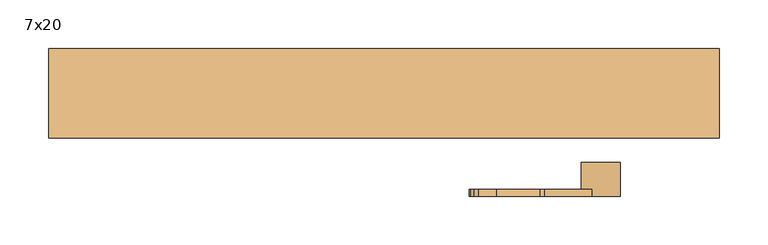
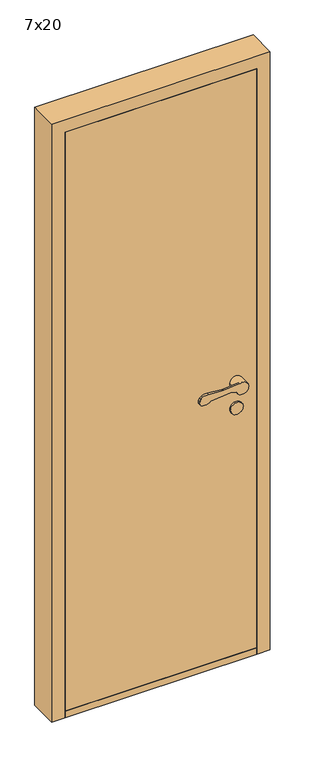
"""IFC4 building model written with IfcOpenShell, lengths in millimetres: door geometry, Innerdør Slett (Diplomat) : 7x20."""

from ifc_helpers import new_model, si_unit, point, frame, frame_2d, origin, origin_with_axes, place, context, project, spatial, polyline, circle_curve, trimmed, segment, composite_curve, outline, extrude, source, transform, mapped, element, save
from ifc_brep_helpers import plane_surface, cylinder_surface, revolved_surface, advanced_brep


def door_7x20_159f4b39(model_context):
    return source(origin(), model_context, "Body", "SolidModel", [
        advanced_brep(
        [(243.9611305, 45.0, 949.1175955), (238.8520664, 45.0, 949.9496913), (176.0476109, 45.0, 943.6260011), (146.721536, 45.0, 938.7393398), (141.8691983, 45.0, 951.8913379), (145.505009, 45.0, 959.9624074), (150.3175669, 45.0, 964.8810513), (168.8963175, 45.0, 967.2639242), (213.6202158, 45.0, 964.1804415), (218.6891233, 45.0, 964.26032), (267.2687793, 45.0, 969.1517356), (296.379633, 45.0, 951.3474568), (258.3841161, 45.0, 942.6204086), (218.6891233, 37.8915284, 964.26032), (213.6202158, 37.8915284, 964.1804415), (168.8963175, 37.8915284, 967.2639242), (150.3175669, 37.8915284, 964.8810513), (145.505009, 37.8915284, 959.9624074), (141.8691983, 37.8915284, 951.8913379), (146.721536, 37.8915284, 938.7393398), (176.0476109, 37.8915284, 943.6260011), (238.8520664, 37.8915284, 949.9496913), (243.9611305, 37.8915284, 949.1175955), (258.3841161, 37.8915284, 942.6204086), (256.379633, 37.8915284, 951.3474568), (267.2687793, 37.8915284, 969.1517356), (296.379633, 10.0, 951.3474568), (256.379633, 10.0, 951.3474568)],
        [
            (0, 1, circle_curve(frame((239.8538865, 45.0, 940.0), z_axis=(0.0, -1.0, 0.0), x_axis=(-0.9949691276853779, 0.0, -0.10018200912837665)), 10.0)),
            (1, 2),
            (2, 3, circle_curve(frame((157.8569644, 45.0, 962.352734), z_axis=(0.0, 1.0, 0.0), x_axis=(-0.9949691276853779, 0.0, -0.10018200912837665)), 26.1072815)),
            (3, 4, circle_curve(frame((150.9867937, 45.0, 947.7840939), z_axis=(0.0, 1.0, 0.0), x_axis=(-0.9949691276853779, 0.0, -0.10018200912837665)), 10.0)),
            (4, 5),
            (5, 6, circle_curve(frame((154.6226045, 45.0, 955.8551634), z_axis=(0.0, 1.0, 0.0), x_axis=(-0.9949691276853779, 0.0, -0.10018200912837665)), 10.0)),
            (6, 7, circle_curve(frame((163.2326797, 45.0, 937.8033877), z_axis=(0.0, 1.0, 0.0), x_axis=(-0.9949691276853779, 0.0, -0.10018200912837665)), 30.0)),
            (7, 8),
            (8, 9, circle_curve(frame((215.683663, 45.0, 994.1093938), z_axis=(0.0, -1.0, 0.0), x_axis=(-0.9949691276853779, 0.0, -0.10018200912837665)), 30.0)),
            (9, 10),
            (10, 11, circle_curve(frame((276.379633, 45.0, 951.3474568), z_axis=(0.0, 1.0, 0.0), x_axis=(-1.0, 0.0, 0.0)), 20.0)),
            (11, 12, circle_curve(frame((276.379633, 45.0, 951.3474568), z_axis=(0.0, 1.0, 0.0), x_axis=(-1.0, 0.0, 0.0)), 20.0)),
            (12, 0),
            (13, 14, circle_curve(frame((215.683663, 37.8915284, 994.1093938), z_axis=(0.0, 1.0, 0.0), x_axis=(-0.9949691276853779, 0.0, -0.10018200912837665)), 30.0)),
            (14, 15),
            (15, 16, circle_curve(frame((163.2326797, 37.8915284, 937.8033877), z_axis=(0.0, -1.0, 0.0), x_axis=(-0.9949691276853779, 0.0, -0.10018200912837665)), 30.0)),
            (16, 17, circle_curve(frame((154.6226045, 37.8915284, 955.8551634), z_axis=(0.0, -1.0, 0.0), x_axis=(-0.9949691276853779, 0.0, -0.10018200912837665)), 10.0)),
            (17, 18),
            (18, 19, circle_curve(frame((150.9867937, 37.8915284, 947.7840939), z_axis=(0.0, -1.0, 0.0), x_axis=(-0.9949691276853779, 0.0, -0.10018200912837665)), 10.0)),
            (19, 20, circle_curve(frame((157.8569644, 37.8915284, 962.352734), z_axis=(0.0, -1.0, 0.0), x_axis=(-0.9949691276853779, 0.0, -0.10018200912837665)), 26.1072815)),
            (20, 21),
            (21, 22, circle_curve(frame((239.8538865, 37.8915284, 940.0), z_axis=(0.0, 1.0, 0.0), x_axis=(-0.9949691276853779, 0.0, -0.10018200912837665)), 10.0)),
            (22, 23),
            (23, 24, circle_curve(frame((276.379633, 37.8915284, 951.3474568), z_axis=(0.0, 1.0, 0.0), x_axis=(-1.0, 0.0, 0.0)), 20.0)),
            (24, 25, circle_curve(frame((276.379633, 37.8915284, 951.3474568), z_axis=(0.0, 1.0, 0.0), x_axis=(-1.0, 0.0, 0.0)), 20.0)),
            (25, 13),
            (9, 13),
            (25, 10),
            (22, 0),
            (12, 23),
            (21, 1),
            (20, 2),
            (19, 3),
            (18, 4),
            (17, 5),
            (16, 6),
            (15, 7),
            (14, 8),
            (26, 27, circle_curve(frame((276.379633, 10.0, 951.3474568), z_axis=(0.0, -1.0, 0.0), x_axis=(-1.0, 0.0, 0.0)), 20.0)),
            (27, 26, circle_curve(frame((276.379633, 10.0, 951.3474568), z_axis=(0.0, -1.0, 0.0), x_axis=(-1.0, 0.0, 0.0)), 20.0)),
            (27, 24),
            (11, 26),
        ],
        [
            plane_surface(frame((267.6960588, 45.0, 969.1947577), z_axis=(0.0, 1.0000000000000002, 0.0), x_axis=(0.9949691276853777, 0.0, 0.10018200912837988))),
            plane_surface(frame((267.6960588, 37.8915284, 969.1947577), z_axis=(0.0, -1.0000000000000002, 0.0), x_axis=(-0.9949691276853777, 0.0, -0.10018200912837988))),
            plane_surface(frame((218.6891233, 45.0, 964.26032), z_axis=(-0.10018200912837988, 0.0, 0.9949691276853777), x_axis=(0.0, -1.0, 0.0))),
            plane_surface(frame((276.9687366, 45.0, 934.2485115), z_axis=(-0.41072439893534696, 0.0, -0.91175954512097), x_axis=(0.0, -1.0, 0.0))),
            revolved_surface(polyline([(229.90419522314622, 37.8915284, 938.9981799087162), (229.90419522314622, 45.0, 938.9981799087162)]), (239.8538865, 37.8915284, 940.0), (0.0, -1.0, 0.0)),
            plane_surface(frame((238.8520664, 45.0, 949.9496913), z_axis=(0.10018200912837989, 0.0, -0.9949691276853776), x_axis=(0.0, -1.0, 0.0))),
            cylinder_surface(frame((157.8569644, 37.8915284, 962.352734), z_axis=(0.0, 1.0, 0.0), x_axis=(-0.9949691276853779, 0.0, -0.10018200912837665)), 26.1072815),
            cylinder_surface(frame((150.9867937, 37.8915284, 947.7840939), z_axis=(0.0, 1.0, 0.0), x_axis=(-0.9949691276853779, 0.0, -0.10018200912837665)), 10.0),
            plane_surface(frame((141.8691983, 45.0, 951.8913379), z_axis=(-0.9117595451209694, 0.0, 0.41072439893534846), x_axis=(0.0, -1.0, 0.0))),
            cylinder_surface(frame((154.6226045, 37.8915284, 955.8551634), z_axis=(0.0, 1.0, 0.0), x_axis=(-0.9949691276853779, 0.0, -0.10018200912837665)), 10.0),
            cylinder_surface(frame((163.2326797, 37.8915284, 937.8033877), z_axis=(0.0, 1.0, 0.0), x_axis=(-0.9949691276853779, 0.0, -0.10018200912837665)), 30.0),
            plane_surface(frame((168.8963175, 45.0, 967.2639242), z_axis=(0.06878157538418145, 0.0, 0.9976317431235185), x_axis=(0.0, -1.0, 0.0))),
            revolved_surface(polyline([(185.83458916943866, 37.8915284, 991.1039335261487), (185.83458916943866, 45.0, 991.1039335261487)]), (215.683663, 37.8915284, 994.1093938), (0.0, -1.0, 0.0)),
            plane_surface(frame((256.379633, 10.0, 951.3474568), z_axis=(0.0, -1.0, 0.0), x_axis=(0.0, 0.0, -1.0))),
            cylinder_surface(frame((276.379633, 10.0, 951.3474568), z_axis=(0.0, 1.0, 0.0), x_axis=(-1.0, 0.0, 0.0)), 20.0),
        ],
        [
            (0, [[1, 2, 3, 4, 5, 6, 7, 8, 9, 10, 11, 12, 13]]),
            (1, [[14, 15, 16, 17, 18, 19, 20, 21, 22, 23, 24, 25, 26]]),
            (2, [[27, -26, 28, -10]]),
            (3, [[29, -13, 30, -23]]),
            (4, [[-1, -29, -22, 31]]),
            (5, [[-2, -31, -21, 32]]),
            (6, [[-3, -32, -20, 33]]),
            (7, [[-4, -33, -19, 34]]),
            (8, [[-5, -34, -18, 35]]),
            (9, [[-6, -35, -17, 36]]),
            (10, [[-7, -36, -16, 37]]),
            (11, [[-8, -37, -15, 38]]),
            (12, [[-9, -38, -14, -27]]),
            (13, [[39, 40]]),
            (14, [[-40, 41, -24, -30, -12, 42]]),
            (14, [[-39, -42, -11, -28, -25, -41]]),
        ],
    ),
        extrude(outline(composite_curve([segment(trimmed(circle_curve(frame_2d((866.3474568, 276.379633)), 20.0), [point((866.3474568, 296.379633))], [point((866.3474568, 256.379633))], False, "CARTESIAN"), True, "CONTINUOUS"), segment(trimmed(circle_curve(frame_2d((866.3474568, 276.379633)), 20.0), [point((866.3474568, 256.379633))], [point((866.3474568, 296.379633))], False, "CARTESIAN"), True, "CONTINUOUS")], self_intersect=False)), frame((0.0, 10.0, 0.0), z_axis=(0.0, 1.0, 0.0), x_axis=(0.0, 0.0, 1.0)), (0.0, 0.0, 1.0), 5.0),
        advanced_brep(
        [(243.9611305, -100.0, 949.1175955), (258.3841161, -100.0, 942.6204086), (296.379633, -100.0, 951.3474568), (267.2687793, -100.0, 969.1517356), (218.6891233, -100.0, 964.26032), (213.6202158, -100.0, 964.1804415), (168.8963175, -100.0, 967.2639242), (150.3175669, -100.0, 964.8810513), (145.505009, -100.0, 959.9624074), (141.8691983, -100.0, 951.8913379), (146.721536, -100.0, 938.7393398), (176.0476109, -100.0, 943.6260011), (238.8520664, -100.0, 949.9496913), (218.6891233, -92.8915284, 964.26032), (267.2687793, -92.8915284, 969.1517356), (256.379633, -92.8915284, 951.3474568), (258.3841161, -92.8915284, 942.6204086), (243.9611305, -92.8915284, 949.1175955), (238.8520664, -92.8915284, 949.9496913), (176.0476109, -92.8915284, 943.6260011), (146.721536, -92.8915284, 938.7393398), (141.8691983, -92.8915284, 951.8913379), (145.505009, -92.8915284, 959.9624074), (150.3175669, -92.8915284, 964.8810513), (168.8963175, -92.8915284, 967.2639242), (213.6202158, -92.8915284, 964.1804415), (296.379633, -65.0, 951.3474568), (256.379633, -65.0, 951.3474568)],
        [
            (0, 1),
            (1, 2, circle_curve(frame((276.379633, -100.0, 951.3474568), z_axis=(0.0, -1.0, 0.0), x_axis=(-1.0, 0.0, 0.0)), 20.0)),
            (2, 3, circle_curve(frame((276.379633, -100.0, 951.3474568), z_axis=(0.0, -1.0, 0.0), x_axis=(-1.0, 0.0, 0.0)), 20.0)),
            (3, 4),
            (4, 5, circle_curve(frame((215.683663, -100.0, 994.1093938), z_axis=(0.0, 1.0, 0.0), x_axis=(-0.9949691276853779, 0.0, -0.10018200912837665)), 30.0)),
            (5, 6),
            (6, 7, circle_curve(frame((163.2326797, -100.0, 937.8033877), z_axis=(0.0, -1.0, 0.0), x_axis=(-0.9949691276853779, 0.0, -0.10018200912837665)), 30.0)),
            (7, 8, circle_curve(frame((154.6226045, -100.0, 955.8551634), z_axis=(0.0, -1.0, 0.0), x_axis=(-0.9949691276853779, 0.0, -0.10018200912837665)), 10.0)),
            (8, 9),
            (9, 10, circle_curve(frame((150.9867937, -100.0, 947.7840939), z_axis=(0.0, -1.0, 0.0), x_axis=(-0.9949691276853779, 0.0, -0.10018200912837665)), 10.0)),
            (10, 11, circle_curve(frame((157.8569644, -100.0, 962.352734), z_axis=(0.0, -1.0, 0.0), x_axis=(-0.9949691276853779, 0.0, -0.10018200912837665)), 26.1072815)),
            (11, 12),
            (12, 0, circle_curve(frame((239.8538865, -100.0, 940.0), z_axis=(0.0, 1.0, 0.0), x_axis=(-0.9949691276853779, 0.0, -0.10018200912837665)), 10.0)),
            (13, 14),
            (14, 15, circle_curve(frame((276.379633, -92.8915284, 951.3474568), z_axis=(0.0, -1.0, 0.0), x_axis=(-1.0, 0.0, 0.0)), 20.0)),
            (15, 16, circle_curve(frame((276.379633, -92.8915284, 951.3474568), z_axis=(0.0, -1.0, 0.0), x_axis=(-1.0, 0.0, 0.0)), 20.0)),
            (16, 17),
            (17, 18, circle_curve(frame((239.8538865, -92.8915284, 940.0), z_axis=(0.0, -1.0, 0.0), x_axis=(-0.9949691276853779, 0.0, -0.10018200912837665)), 10.0)),
            (18, 19),
            (19, 20, circle_curve(frame((157.8569644, -92.8915284, 962.352734), z_axis=(0.0, 1.0, 0.0), x_axis=(-0.9949691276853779, 0.0, -0.10018200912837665)), 26.1072815)),
            (20, 21, circle_curve(frame((150.9867937, -92.8915284, 947.7840939), z_axis=(0.0, 1.0, 0.0), x_axis=(-0.9949691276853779, 0.0, -0.10018200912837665)), 10.0)),
            (21, 22),
            (22, 23, circle_curve(frame((154.6226045, -92.8915284, 955.8551634), z_axis=(0.0, 1.0, 0.0), x_axis=(-0.9949691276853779, 0.0, -0.10018200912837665)), 10.0)),
            (23, 24, circle_curve(frame((163.2326797, -92.8915284, 937.8033877), z_axis=(0.0, 1.0, 0.0), x_axis=(-0.9949691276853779, 0.0, -0.10018200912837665)), 30.0)),
            (24, 25),
            (25, 13, circle_curve(frame((215.683663, -92.8915284, 994.1093938), z_axis=(0.0, -1.0, 0.0), x_axis=(-0.9949691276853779, 0.0, -0.10018200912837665)), 30.0)),
            (3, 14),
            (13, 4),
            (16, 1),
            (0, 17),
            (12, 18),
            (11, 19),
            (10, 20),
            (9, 21),
            (8, 22),
            (7, 23),
            (6, 24),
            (5, 25),
            (26, 27, circle_curve(frame((276.379633, -65.0, 951.3474568), z_axis=(0.0, 1.0, 0.0), x_axis=(-1.0, 0.0, 0.0)), 20.0)),
            (27, 26, circle_curve(frame((276.379633, -65.0, 951.3474568), z_axis=(0.0, 1.0, 0.0), x_axis=(-1.0, 0.0, 0.0)), 20.0)),
            (26, 2),
            (15, 27),
        ],
        [
            plane_surface(frame((267.6960588, -100.0, 969.1947577), z_axis=(0.0, -1.0000000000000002, 0.0), x_axis=(0.9949691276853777, 0.0, 0.10018200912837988))),
            plane_surface(frame((267.6960588, -92.8915284, 969.1947577), z_axis=(0.0, 1.0000000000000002, 0.0), x_axis=(-0.9949691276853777, 0.0, -0.10018200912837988))),
            plane_surface(frame((218.6891233, -100.0, 964.26032), z_axis=(-0.10018200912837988, 0.0, 0.9949691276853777), x_axis=(0.0, 1.0, 0.0))),
            plane_surface(frame((276.9687366, -100.0, 934.2485115), z_axis=(-0.41072439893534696, 0.0, -0.91175954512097), x_axis=(0.0, 1.0, 0.0))),
            revolved_surface(polyline([(229.90419522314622, -92.8915284, 938.9981799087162), (229.90419522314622, -100.0, 938.9981799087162)]), (239.8538865, -92.8915284, 940.0), (0.0, 1.0, 0.0)),
            plane_surface(frame((238.8520664, -100.0, 949.9496913), z_axis=(0.10018200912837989, 0.0, -0.9949691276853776), x_axis=(0.0, 1.0, 0.0))),
            cylinder_surface(frame((157.8569644, -92.8915284, 962.352734), z_axis=(0.0, -1.0, 0.0), x_axis=(-0.9949691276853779, 0.0, -0.10018200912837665)), 26.1072815),
            cylinder_surface(frame((150.9867937, -92.8915284, 947.7840939), z_axis=(0.0, -1.0, 0.0), x_axis=(-0.9949691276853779, 0.0, -0.10018200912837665)), 10.0),
            plane_surface(frame((141.8691983, -100.0, 951.8913379), z_axis=(-0.9117595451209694, 0.0, 0.41072439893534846), x_axis=(0.0, 1.0, 0.0))),
            cylinder_surface(frame((154.6226045, -92.8915284, 955.8551634), z_axis=(0.0, -1.0, 0.0), x_axis=(-0.9949691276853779, 0.0, -0.10018200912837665)), 10.0),
            cylinder_surface(frame((163.2326797, -92.8915284, 937.8033877), z_axis=(0.0, -1.0, 0.0), x_axis=(-0.9949691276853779, 0.0, -0.10018200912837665)), 30.0),
            plane_surface(frame((168.8963175, -100.0, 967.2639242), z_axis=(0.06878157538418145, 0.0, 0.9976317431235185), x_axis=(0.0, 1.0, 0.0))),
            revolved_surface(polyline([(185.83458916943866, -92.8915284, 991.1039335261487), (185.83458916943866, -100.0, 991.1039335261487)]), (215.683663, -92.8915284, 994.1093938), (0.0, 1.0, 0.0)),
            plane_surface(frame((256.379633, -65.0, 951.3474568), z_axis=(0.0, 1.0, 0.0), x_axis=(0.0, 0.0, -1.0))),
            cylinder_surface(frame((276.379633, -65.0, 951.3474568), z_axis=(0.0, -1.0, 0.0), x_axis=(-1.0, 0.0, 0.0)), 20.0),
        ],
        [
            (0, [[1, 2, 3, 4, 5, 6, 7, 8, 9, 10, 11, 12, 13]]),
            (1, [[14, 15, 16, 17, 18, 19, 20, 21, 22, 23, 24, 25, 26]]),
            (2, [[-4, 27, -14, 28]]),
            (3, [[-17, 29, -1, 30]]),
            (4, [[31, -18, -30, -13]]),
            (5, [[32, -19, -31, -12]]),
            (6, [[33, -20, -32, -11]]),
            (7, [[34, -21, -33, -10]]),
            (8, [[35, -22, -34, -9]]),
            (9, [[36, -23, -35, -8]]),
            (10, [[37, -24, -36, -7]]),
            (11, [[38, -25, -37, -6]]),
            (12, [[-28, -26, -38, -5]]),
            (13, [[39, 40]]),
            (14, [[41, -2, -29, -16, 42, -39]]),
            (14, [[-42, -15, -27, -3, -41, -40]]),
        ],
    ),
        extrude(outline(composite_curve([segment(trimmed(circle_curve(frame_2d((866.3474568, 276.379633)), 20.0), [point((866.3474568, 296.379633))], [point((866.3474568, 256.379633))], False, "CARTESIAN"), True, "CONTINUOUS"), segment(trimmed(circle_curve(frame_2d((866.3474568, 276.379633)), 20.0), [point((866.3474568, 256.379633))], [point((866.3474568, 296.379633))], False, "CARTESIAN"), True, "CONTINUOUS")], self_intersect=False)), frame((0.0, -70.0, 0.0), z_axis=(0.0, 1.0, 0.0), x_axis=(0.0, 0.0, 1.0)), (0.0, 0.0, 1.0), 5.0),
        extrude(outline(polyline([(356.379633, 52.0), (356.379633, -40.0), (-249.620367, -40.0), (-249.620367, 52.0), (356.379633, 52.0)])), origin_with_axes(), (0.0, 0.0, 1.0), 22.0),
        extrude(outline(polyline([(356.379633, 10.0), (356.379633, -40.0), (-249.620367, -40.0), (-249.620367, 10.0), (356.379633, 10.0)])), frame((0.0, 0.0, 22.0), z_axis=(0.0, 0.0, 1.0), x_axis=(1.0, 0.0, 0.0)), (0.0, 0.0, 1.0), 1931.0),
        extrude(outline(polyline([(0.0, -249.620367), (1953.0, -249.620367), (1953.0, 356.379633), (0.0, 356.379633), (0.0, 398.379633), (1995.0, 398.379633), (1995.0, -291.620367), (0.0, -291.620367), (0.0, -249.620367)])), frame((0.0, -40.0, 0.0), z_axis=(0.0, 1.0, 0.0), x_axis=(0.0, 0.0, 1.0)), (0.0, 0.0, 1.0), 92.0),
    ])


if __name__ == "__main__":
    model = new_model("IFC4")
    model_context = context("Model", 3, world=origin())
    ifc_project = project(units=[si_unit("LENGTHUNIT", "METRE", prefix="MILLI")], contexts=[model_context])
    site = spatial("IfcSite", under=ifc_project)
    building = spatial("IfcBuilding", under=site)
    placement = place(None, origin())
    door_7x20_shape = door_7x20_159f4b39(model_context)
    element("IfcDoor", 1, ObjectType="Innerdør Slett (Diplomat) : 7x20", at=placement, inside=building, context=model_context, shape_type="MappedRepresentation", body=[
        mapped(door_7x20_shape, transform((0.0, 0.0, 0.0), x_axis=(1.0, 0.0, 0.0), y_axis=(0.0, 1.0, 0.0), z_axis=(0.0, 0.0, 1.0))),
    ])
    save(model, "model.ifc")
